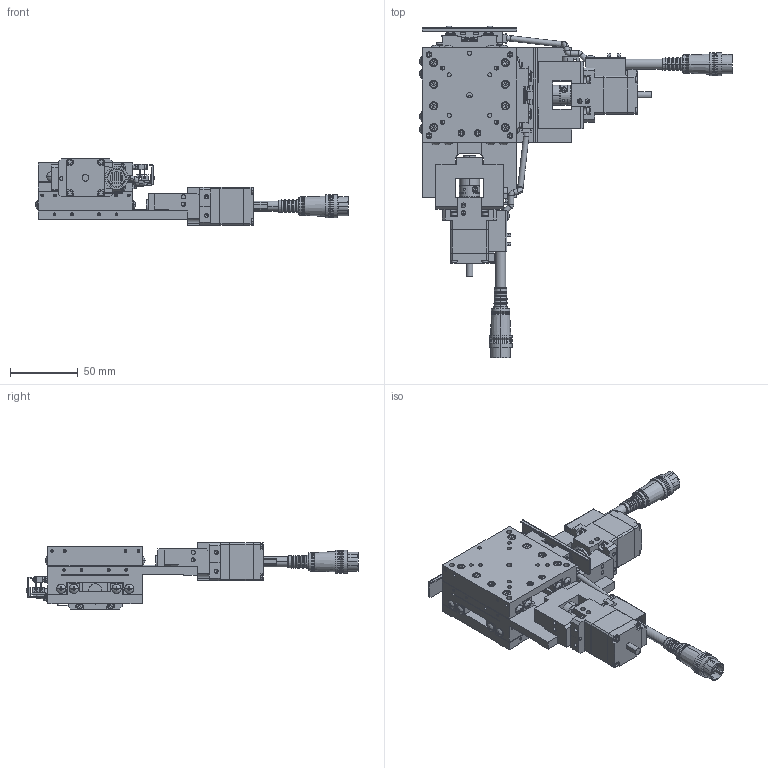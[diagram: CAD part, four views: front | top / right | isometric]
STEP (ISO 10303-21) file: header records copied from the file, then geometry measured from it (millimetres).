
FILE_DESCRIPTION (( 'STEP AP203' ), '1' );
FILE_NAME ('YA07F-R202.STEP', '2019-02-26T08:43:28', ( '' ), ( '' ), 'SwSTEP 2.0', 'SolidWorks 2018', '' );
FILE_SCHEMA (( 'CONFIG_CONTROL_DESIGN' ));
Length unit declared in the file: millimetre
Products named in the file (10): second table-Part-1; base-Part-1; YA07F-R202; second table-Part-2; base-Part-2; base; second table-Part-3; second table; base-Part-3; table
Assembly tree (9 placements, depth 3):
  YA07F-R202
    second table
      second table-Part-1
      second table-Part-2
      second table-Part-3
    base
      base-Part-1
      base-Part-2
      base-Part-3
    table
Bounding box: 231.39 x 245.68 x 49 mm (x, y, z)
Volume: 337004.2 mm3; surface area: 141292.4 mm2
Topology: 7 solids, 7 shells, 4367 faces, 10891 edges, 6666 vertices
Faces by surface type: plane 2559, cylinder 1064, cone 604, torus 80, sphere 60
Entity records: 130867 total; most frequent: CARTESIAN_POINT 23990, DIRECTION 22995, ORIENTED_EDGE 21390, EDGE_CURVE 10695, AXIS2_PLACEMENT_3D 8195, VERTEX_POINT 6654, VECTOR 6605, LINE 6605
